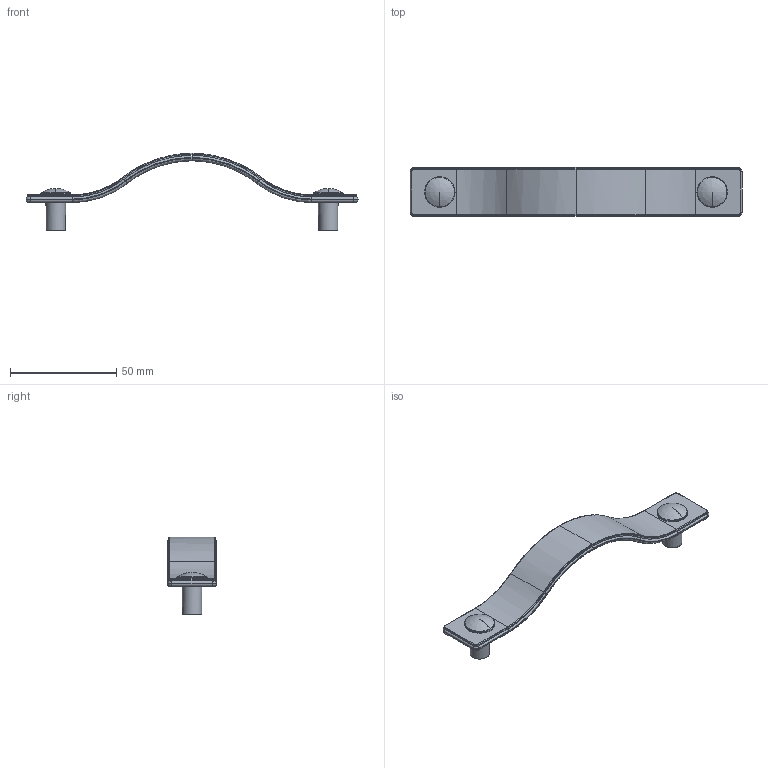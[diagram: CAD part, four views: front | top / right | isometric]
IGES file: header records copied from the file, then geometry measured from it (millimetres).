
Start section: C
Global section: file name: 8254-156.igs; native system: By Siemens PLM Incorporated; preprocessor: XPlus GENERIC/IGES 16.0.42; author: Author; organization: Title; date: 20200906.083905; units: millimetre
Bounding box: 156 x 23 x 36.3 mm (x, y, z)
Surface area: 17734.3 mm2 (no closed solid volume)
Topology: 0 solids, 0 shells, 112 faces, 534 edges, 532 vertices
Faces by surface type: bspline 112
